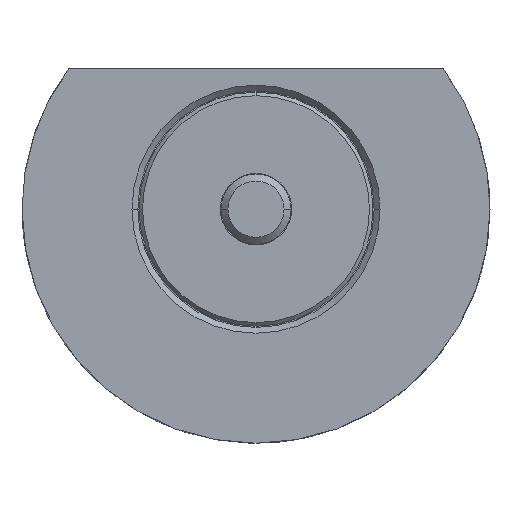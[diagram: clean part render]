
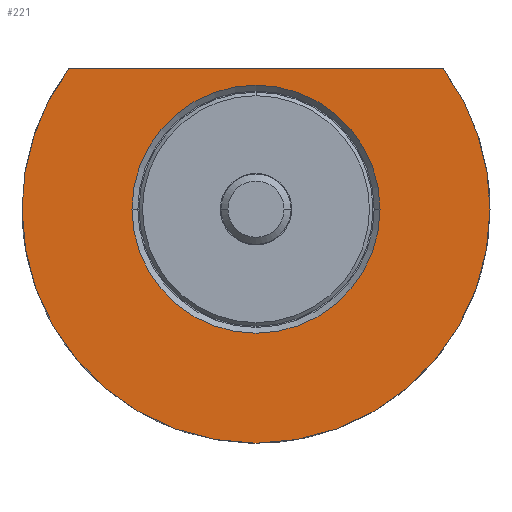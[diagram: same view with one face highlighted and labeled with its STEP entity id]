
A CAD part, front view. The second image highlights one B-rep face of the part: STEP entity #221.
In plain terms, the highlighted planar face has unit normal (0, -1, 0).
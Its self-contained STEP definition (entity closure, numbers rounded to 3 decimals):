
#30 = CARTESIAN_POINT ( 'NONE',  ( 16.001, -10., 11.999 ) ) ;
#40 = DIRECTION ( 'NONE',  ( 1., 0., 0. ) ) ;
#81 = VERTEX_POINT ( 'NONE', #155 ) ;
#129 = CIRCLE ( 'NONE', #1928, 10.6 ) ;
#155 = CARTESIAN_POINT ( 'NONE',  ( 20., -10., 0. ) ) ;
#178 = CARTESIAN_POINT ( 'NONE',  ( -20., -10., 0. ) ) ;
#215 = VERTEX_POINT ( 'NONE', #30 ) ;
#221 = ADVANCED_FACE ( 'NONE', ( #1849, #246 ), #1465, .T. ) ;
#246 = FACE_OUTER_BOUND ( 'NONE', #1188, .T. ) ;
#250 = DIRECTION ( 'NONE',  ( -1., 0., 0. ) ) ;
#257 = EDGE_LOOP ( 'NONE', ( #1857, #1397 ) ) ;
#263 = CARTESIAN_POINT ( 'NONE',  ( -10.6, -10., 11.999 ) ) ;
#299 = CARTESIAN_POINT ( 'NONE',  ( 0., -10., 0. ) ) ;
#304 = CARTESIAN_POINT ( 'NONE',  ( -16.001, -10., 11.999 ) ) ;
#387 = DIRECTION ( 'NONE',  ( 0., 1., 0. ) ) ;
#532 = VERTEX_POINT ( 'NONE', #178 ) ;
#668 = CARTESIAN_POINT ( 'NONE',  ( 0., -10., 0. ) ) ;
#809 = ORIENTED_EDGE ( 'NONE', *, *, #2407, .F. ) ;
#877 = DIRECTION ( 'NONE',  ( 0., 1., 0. ) ) ;
#935 = VERTEX_POINT ( 'NONE', #304 ) ;
#962 = CIRCLE ( 'NONE', #1640, 10.6 ) ;
#978 = CIRCLE ( 'NONE', #1187, 20. ) ;
#990 = VERTEX_POINT ( 'NONE', #1591 ) ;
#997 = CARTESIAN_POINT ( 'NONE',  ( 10.6, -10., 0. ) ) ;
#1007 = CIRCLE ( 'NONE', #1637, 20. ) ;
#1126 = DIRECTION ( 'NONE',  ( 0., 1., 0. ) ) ;
#1187 = AXIS2_PLACEMENT_3D ( 'NONE', #668, #1246, #250 ) ;
#1188 = EDGE_LOOP ( 'NONE', ( #2100, #1930, #2201, #809 ) ) ;
#1200 = EDGE_CURVE ( 'NONE', #215, #935, #2277, .T. ) ;
#1218 = DIRECTION ( 'NONE',  ( 0., -1., 0. ) ) ;
#1246 = DIRECTION ( 'NONE',  ( 0., 1., 0. ) ) ;
#1270 = DIRECTION ( 'NONE',  ( -1., 0., 0. ) ) ;
#1397 = ORIENTED_EDGE ( 'NONE', *, *, #2166, .T. ) ;
#1465 = PLANE ( 'NONE',  #1785 ) ;
#1577 = CARTESIAN_POINT ( 'NONE',  ( 0., -10., 0. ) ) ;
#1585 = DIRECTION ( 'NONE',  ( -1., 0., 0. ) ) ;
#1591 = CARTESIAN_POINT ( 'NONE',  ( -10.6, -10., 0. ) ) ;
#1609 = EDGE_CURVE ( 'NONE', #532, #935, #978, .T. ) ;
#1630 = DIRECTION ( 'NONE',  ( 0., 1., 0. ) ) ;
#1637 = AXIS2_PLACEMENT_3D ( 'NONE', #1577, #1126, #1958 ) ;
#1640 = AXIS2_PLACEMENT_3D ( 'NONE', #1796, #387, #1770 ) ;
#1644 = EDGE_CURVE ( 'NONE', #215, #81, #1806, .T. ) ;
#1770 = DIRECTION ( 'NONE',  ( -1., 0., 0. ) ) ;
#1785 = AXIS2_PLACEMENT_3D ( 'NONE', #1862, #1218, #40 ) ;
#1796 = CARTESIAN_POINT ( 'NONE',  ( 0., -10., 0. ) ) ;
#1806 = CIRCLE ( 'NONE', #2022, 20. ) ;
#1849 = FACE_BOUND ( 'NONE', #257, .T. ) ;
#1857 = ORIENTED_EDGE ( 'NONE', *, *, #1948, .T. ) ;
#1862 = CARTESIAN_POINT ( 'NONE',  ( -10.6, -10., 0. ) ) ;
#1867 = DIRECTION ( 'NONE',  ( -1., 0., 0. ) ) ;
#1908 = VECTOR ( 'NONE', #1867, 1000. ) ;
#1928 = AXIS2_PLACEMENT_3D ( 'NONE', #1971, #1630, #1585 ) ;
#1930 = ORIENTED_EDGE ( 'NONE', *, *, #1200, .T. ) ;
#1948 = EDGE_CURVE ( 'NONE', #1957, #990, #962, .T. ) ;
#1957 = VERTEX_POINT ( 'NONE', #997 ) ;
#1958 = DIRECTION ( 'NONE',  ( -1., 0., 0. ) ) ;
#1971 = CARTESIAN_POINT ( 'NONE',  ( 0., -10., 0. ) ) ;
#2022 = AXIS2_PLACEMENT_3D ( 'NONE', #299, #877, #1270 ) ;
#2100 = ORIENTED_EDGE ( 'NONE', *, *, #1644, .F. ) ;
#2166 = EDGE_CURVE ( 'NONE', #990, #1957, #129, .T. ) ;
#2201 = ORIENTED_EDGE ( 'NONE', *, *, #1609, .F. ) ;
#2277 = LINE ( 'NONE', #263, #1908 ) ;
#2407 = EDGE_CURVE ( 'NONE', #81, #532, #1007, .T. ) ;
